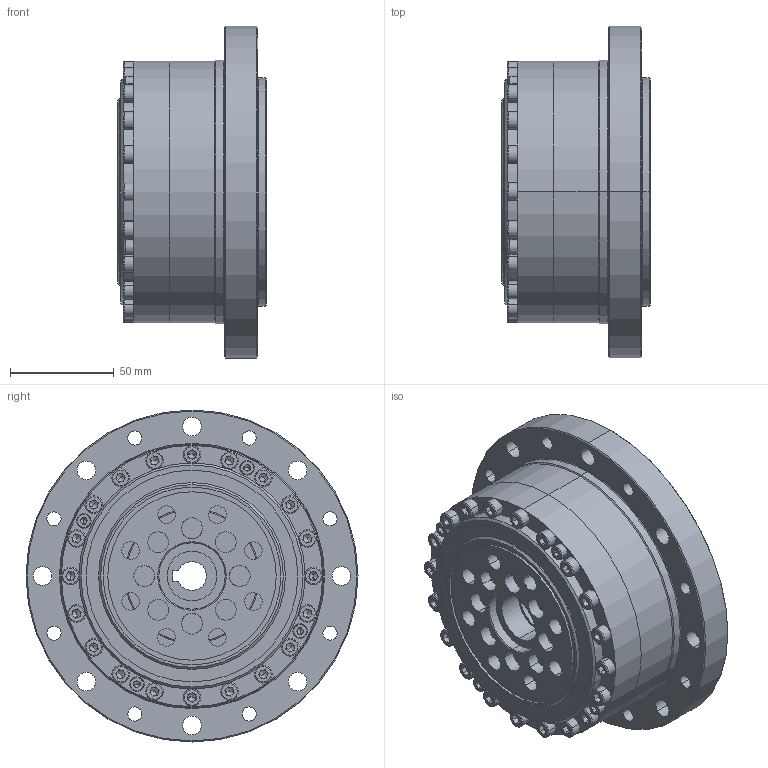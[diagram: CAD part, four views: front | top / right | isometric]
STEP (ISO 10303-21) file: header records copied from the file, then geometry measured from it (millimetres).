
FILE_DESCRIPTION (( 'STEP AP203' ), '1' );
FILE_NAME ('LCS-40-XXX-C-I.STEP', '2016-08-25T07:20:58', ( 'Windows 蚚誧' ), ( 'Users' ), 'SwSTEP 2.0', 'SolidWorks 2013', '' );
FILE_SCHEMA (( 'CONFIG_CONTROL_DESIGN' ));
Length unit declared in the file: millimetre
Products named in the file (16): LCS-40-XXX-C-I; LCS-40-XXX-P02-I; LCS-40-XXX-P05-I; LCS-40-XXX-P03-I; LCS-40-XXX-P04-I; DB-14-I; 15Z-901026; RZC-40内外圈+钢球; socket head cap screw_din_DIN 912 M12 x 25 --- 25N; RZC-40悵厥殤; socket head cap screw_din_内六角圆柱头螺钉M4 x 16; 柔性轴承RZC-40; socket head cap screw_din_内六角圆柱头螺钉M5 x 25; 疏楷汜ん-40-I; ﾊｮﾗﾖﾇﾐｲﾛｳﾁﾍｷﾂﾝｶ､M3 x 8_ISO 7046-1 - M3 x 8 - Z --- 8C; LCS-40-XXX-P01-I
Assembly tree (47 placements, depth 4):
  LCS-40-XXX-C-I
    疏楷汜ん-40-I
      LCS-40-XXX-P03-I
      DB-14-I
      柔性轴承RZC-40
        RZC-40内外圈+钢球
        RZC-40悵厥殤
    LCS-40-XXX-P01-I
    LCS-40-XXX-P02-I
    LCS-40-XXX-P05-I
    LCS-40-XXX-P04-I
    15Z-901026
    socket head cap screw_din_DIN 912 M12 x 25 --- 25N  x8
    socket head cap screw_din_内六角圆柱头螺钉M4 x 16  x4
    socket head cap screw_din_内六角圆柱头螺钉M5 x 25  x20
    ﾊｮﾗﾖﾇﾐｲﾛｳﾁﾍｷﾂﾝｶ､M3 x 8_ISO 7046-1 - M3 x 8 - Z --- 8C  x4
Bounding box: 71.5 x 160 x 160 mm (x, y, z)
Volume: 653261.8 mm3; surface area: 288581.9 mm2
Topology: 70 solids, 70 shells, 1707 faces, 3984 edges, 2383 vertices
Faces by surface type: plane 675, cylinder 546, cone 264, torus 176, sphere 46
Entity records: 26349 total; most frequent: DIRECTION 4712, CARTESIAN_POINT 3944, ORIENTED_EDGE 3714, AXIS2_PLACEMENT_3D 2015, EDGE_CURVE 1857, VERTEX_POINT 1195, CIRCLE 1162, EDGE_LOOP 1062
